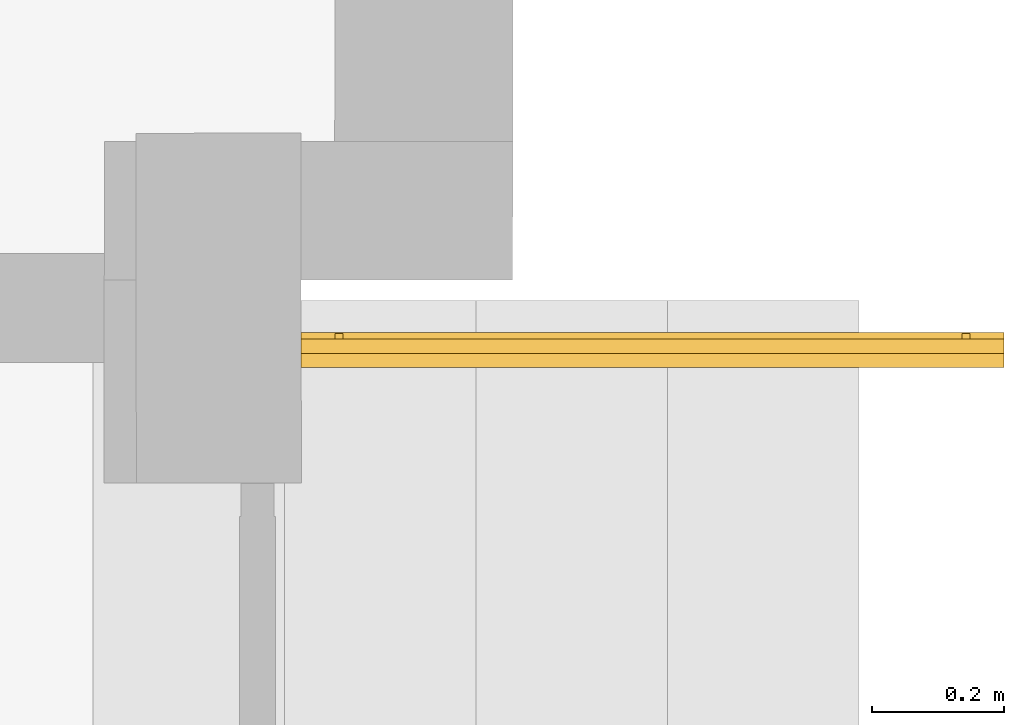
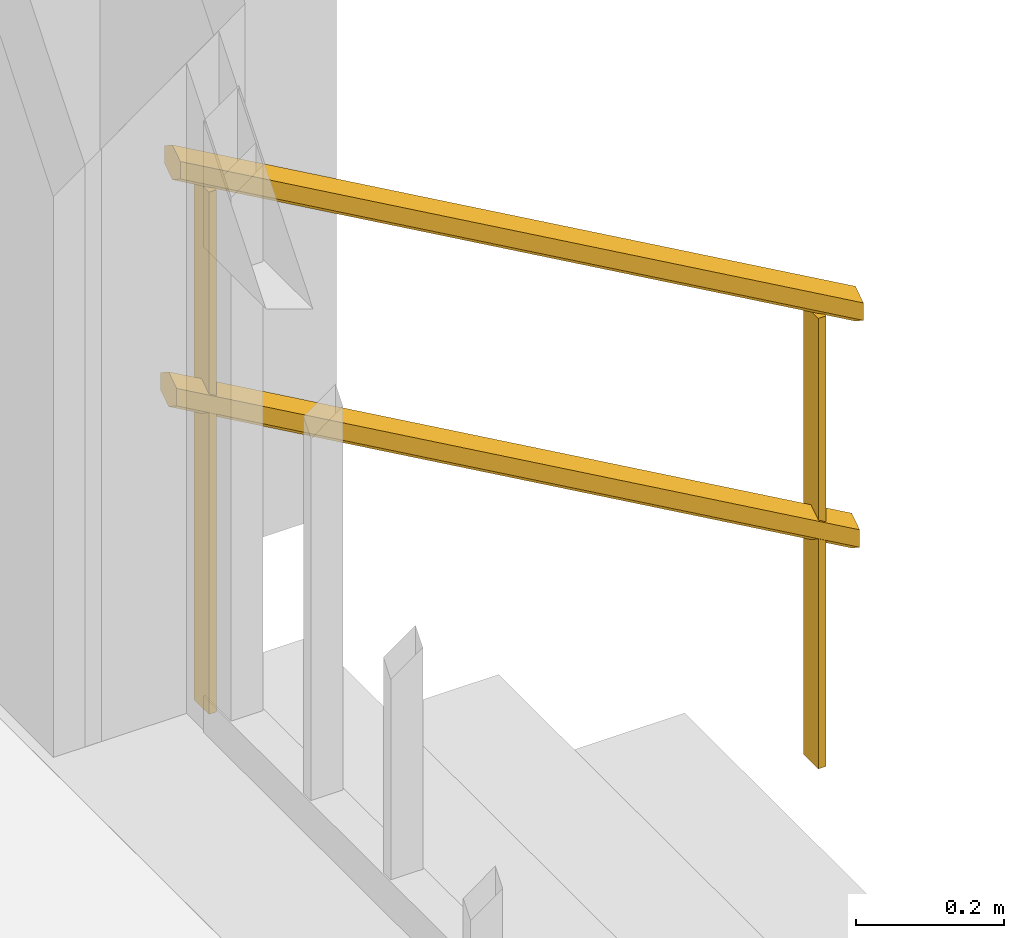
# One storey, part 64 of 128: 1 railing, 1 element without a shape of its own.
"""IFC2X3 building model written with IfcOpenShell, lengths in metres."""

from ifc_helpers import new_model, entity, si_unit, converted_unit, derived_unit, direction, frame, origin, place, context, subcontext, project, spatial, faceted_brep, material, type_object, element, aggregate, save


model = new_model("IFC2X3")

# Units and contexts
model_context = context("Model", 3, precision=1e-05, world=origin(), true_north=direction((6.123031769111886e-17, 1.0)))
body_context = subcontext(model_context, "Body", "Model", "MODEL_VIEW")
ifc_project = project(units=[si_unit("LENGTHUNIT", "METRE"), si_unit("AREAUNIT", "SQUARE_METRE"), converted_unit("PLANEANGLEUNIT", "DEGREE", entity("IfcPlaneAngleMeasure", 0.017453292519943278), si_unit("PLANEANGLEUNIT", "RADIAN"), dimensions=[0, 0, 0, 0, 0, 0, 0]), derived_unit("THERMALTRANSMITTANCEUNIT", [(si_unit("MASSUNIT", "GRAM", prefix="KILO"), 1), (si_unit("THERMODYNAMICTEMPERATUREUNIT", "KELVIN"), -1), (si_unit("TIMEUNIT", "SECOND"), -3)])], contexts=[model_context])

# Site, building, storey
site_placement = place(None, origin())
site = spatial("IfcSite", under=ifc_project, at=site_placement, Name="Default", CompositionType="ELEMENT")
building_placement = place(site_placement, origin())
building = spatial("IfcBuilding", under=site, at=building_placement, CompositionType="ELEMENT")
storey_placement = place(building_placement, origin())
storey = spatial("IfcBuildingStorey", under=building, at=storey_placement, Name="00_RDC CAF", CompositionType="ELEMENT", Elevation=2.4982504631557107e-13)

# Stair, railing
type_product = type_object("IfcTypeProduct", Name="Escalier coulé sur place:E_Coule_en_place_Beton_Paillasse_550mm")
stair_placement = place(storey_placement, origin())
stair = element("IfcStair", 1, at=stair_placement, inside=storey, type_object=type_product, Name="Escalier coulé sur place:Escalier", ObjectType="Escalier coulé sur place:E_Coule_en_place_Beton_Paillasse_550mm", ShapeType="STRAIGHT_RUN_STAIR")
ifc_material = material(Name="STR - Acier")
railing_type = type_object("IfcRailingType", Name="Garde-corps:GC_2_lisses_D25_550mm", PredefinedType="NOTDEFINED")
railing_placement = place(stair_placement, frame((48.8488530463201, 129.89092657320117, -0.5874979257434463)))
railing = element("IfcRailing", 2, at=railing_placement, type_object=railing_type, material=ifc_material, Name="Garde-corps:GC_2_lisses_D25_550mm", ObjectType="Garde-corps:GC_2_lisses_D25_550mm", PredefinedType="NOTDEFINED", context=body_context, shape_type="Brep", body=[
    faceted_brep([(0.05142788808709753, 0.016595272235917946, 1.2829906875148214), (0.06342788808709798, 0.016595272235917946, 1.2829906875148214), (0.06342788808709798, 0.05659527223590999, 1.2829906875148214), (0.05142788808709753, 0.05659527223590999, 1.2829906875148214), (0.05142788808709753, 0.016595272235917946, 0.42249792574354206), (0.05142788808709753, 0.05659527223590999, 0.42249792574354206), (0.06342788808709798, 0.05659527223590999, 0.42249792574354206), (0.06342788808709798, 0.016595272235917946, 0.42249792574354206)], [[[0, 1, 2, 3]], [[4, 5, 6, 7]], [[1, 0, 4, 7]], [[2, 1, 7, 6]], [[3, 2, 6, 5]], [[0, 3, 5, 4]]]),
    faceted_brep([(1.0014278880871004, 0.016595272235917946, 0.7424734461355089), (1.0134278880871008, 0.016595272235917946, 0.7424734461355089), (1.0134278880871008, 0.05659527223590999, 0.7424734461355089), (1.0014278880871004, 0.05659527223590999, 0.7424734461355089), (1.0014278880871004, 0.016595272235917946, 0.0), (1.0014278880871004, 0.05659527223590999, 0.0), (1.0134278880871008, 0.05659527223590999, 0.0), (1.0134278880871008, 0.016595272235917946, 0.0)], [[[0, 1, 2, 3]], [[4, 5, 6, 7]], [[1, 0, 4, 7]], [[2, 1, 7, 6]], [[3, 2, 6, 5]], [[0, 3, 5, 4]]]),
    faceted_brep([(1.0648557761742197, 0.01494463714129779, 0.34418059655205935), (1.0648557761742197, 0.02035729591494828, 0.3405851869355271), (1.0648557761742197, 0.025769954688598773, 0.3369897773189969), (1.0648557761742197, 0.03257497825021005, 0.3324694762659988), (1.0648557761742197, 0.036595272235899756, 0.32979895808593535), (1.0648557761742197, 0.04061556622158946, 0.33246947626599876), (1.0648557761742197, 0.04463586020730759, 0.335139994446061), (1.0648557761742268, 0.051440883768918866, 0.33966029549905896), (1.0648557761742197, 0.05824590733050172, 0.3441805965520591), (1.0648557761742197, 0.05824590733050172, 0.3513714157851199), (1.0648557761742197, 0.05824590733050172, 0.35856223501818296), (1.0648557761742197, 0.05824590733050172, 0.36575305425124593), (1.0648557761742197, 0.05824590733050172, 0.3729438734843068), (1.0648557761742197, 0.05283324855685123, 0.3765392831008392), (1.0648557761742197, 0.04742058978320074, 0.3801346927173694), (1.0648557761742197, 0.04200793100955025, 0.3837301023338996), (1.0648557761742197, 0.036595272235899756, 0.38732551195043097), (1.0648557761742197, 0.031182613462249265, 0.3837301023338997), (1.0648557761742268, 0.025769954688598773, 0.38013469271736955), (1.0648557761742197, 0.02035729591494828, 0.3765392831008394), (1.0648557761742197, 0.01494463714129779, 0.37294387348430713), (1.0648557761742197, 0.014944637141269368, 0.36575305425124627), (1.0648557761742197, 0.01494463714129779, 0.3585622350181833), (1.0648557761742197, 0.01494463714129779, 0.3513714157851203), (0.0, 0.01494463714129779, 0.9500468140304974), (0.0, 0.01494463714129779, 0.9572376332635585), (0.0, 0.01494463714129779, 0.9644284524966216), (0.0, 0.01494463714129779, 0.9716192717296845), (0.0, 0.01494463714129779, 0.9788100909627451), (0.0, 0.02174966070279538, 0.983330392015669), (0.0, 0.02855468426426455, 0.9878506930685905), (0.0, 0.03257497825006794, 0.9905212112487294), (0.0, 0.036595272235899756, 0.993191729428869), (0.0, 0.04061556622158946, 0.9905212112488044), (0.0, 0.04742058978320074, 0.9860009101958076), (0.0, 0.05283324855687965, 0.9824055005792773), (0.0, 0.05824590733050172, 0.9788100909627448), (0.0, 0.058245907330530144, 0.9716192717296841), (0.0, 0.05824590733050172, 0.9644284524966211), (0.0, 0.05824590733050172, 0.9572376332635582), (0.0, 0.05824590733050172, 0.9500468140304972), (0.0, 0.05283324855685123, 0.946451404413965), (0.0, 0.04742058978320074, 0.9428559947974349), (0.0, 0.04200793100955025, 0.9392605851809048), (0.0, 0.036595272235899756, 0.9356651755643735), (0.0, 0.031182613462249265, 0.9392605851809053), (0.0, 0.025769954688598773, 0.9428559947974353), (0.0, 0.02035729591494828, 0.9464514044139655)], [[[0, 1, 2, 3, 4, 5, 6, 7, 8, 9, 10, 11, 12, 13, 14, 15, 16, 17, 18, 19, 20, 21, 22, 23]], [[24, 25, 26, 27, 28, 29, 30, 31, 32, 33, 34, 35, 36, 37, 38, 39, 40, 41, 42, 43, 44, 45, 46, 47]], [[8, 7, 6, 5, 4, 44, 43, 42, 41, 40]], [[10, 9, 8, 40, 39, 38, 37, 36, 12, 11]], [[33, 32, 16, 15, 14, 13, 12, 36, 35, 34]], [[28, 20, 19, 18, 17, 16, 32, 31, 30, 29]], [[2, 1, 0, 24, 47, 46, 45, 44, 4, 3]], [[23, 22, 21, 20, 28, 27, 26, 25, 24, 0]]]),
    faceted_brep([(1.0648557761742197, 0.004944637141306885, 0.7241805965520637), (1.0648557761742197, 0.010357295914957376, 0.7205851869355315), (1.0648557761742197, 0.015769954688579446, 0.7169897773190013), (1.0648557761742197, 0.022574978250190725, 0.7124694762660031), (1.0648557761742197, 0.02659527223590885, 0.7097989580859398), (1.0648557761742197, 0.030615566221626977, 0.7124694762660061), (1.0648557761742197, 0.034635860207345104, 0.7151399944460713), (1.0648557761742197, 0.04144088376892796, 0.7196602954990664), (1.0648557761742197, 0.04824590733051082, 0.7241805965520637), (1.0648557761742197, 0.04824590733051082, 0.7313714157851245), (1.0648557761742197, 0.04824590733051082, 0.7385622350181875), (1.0648557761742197, 0.04824590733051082, 0.7457530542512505), (1.0648557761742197, 0.04824590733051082, 0.7529438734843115), (1.0648557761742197, 0.042833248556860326, 0.7565392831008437), (1.0648557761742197, 0.037420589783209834, 0.7601346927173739), (1.0648557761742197, 0.03200793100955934, 0.7637301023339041), (1.0648557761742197, 0.02659527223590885, 0.7673255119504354), (1.0648557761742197, 0.02118261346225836, 0.7637301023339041), (1.0648557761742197, 0.015769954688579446, 0.760134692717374), (1.0648557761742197, 0.010357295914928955, 0.7565392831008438), (1.0648557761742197, 0.004944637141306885, 0.7529438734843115), (1.0648557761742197, 0.004944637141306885, 0.7457530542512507), (1.0648557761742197, 0.004944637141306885, 0.7385622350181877), (1.0648557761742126, 0.004944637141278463, 0.7313714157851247), (0.0, 0.004944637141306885, 1.3588100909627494), (0.0, 0.011749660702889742, 1.3633303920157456), (0.0, 0.0185546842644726, 1.3678506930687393), (0.0, 0.022574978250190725, 1.3705212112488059), (0.0, 0.02659527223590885, 1.3731917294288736), (0.0, 0.030615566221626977, 1.3705212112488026), (0.0, 0.037420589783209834, 1.3660009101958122), (0.0, 0.042833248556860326, 1.362405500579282), (0.0, 0.04824590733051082, 1.3588100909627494), (0.0, 0.048245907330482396, 1.3516192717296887), (0.0, 0.04824590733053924, 1.3444284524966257), (0.0, 0.04824590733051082, 1.337237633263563), (0.0, 0.04824590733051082, 1.3300468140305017), (0.0, 0.042833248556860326, 1.32645140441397), (0.0, 0.037420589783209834, 1.3228559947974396), (0.0, 0.03200793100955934, 1.3192605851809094), (0.0, 0.02659527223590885, 1.3156651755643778), (0.0, 0.02118261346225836, 1.3192605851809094), (0.0, 0.015769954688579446, 1.3228559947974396), (0.0, 0.010357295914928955, 1.32645140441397), (0.0, 0.004944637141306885, 1.3300468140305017), (0.0, 0.004944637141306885, 1.337237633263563), (0.0, 0.004944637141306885, 1.344428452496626), (0.0, 0.004944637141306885, 1.3516192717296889)], [[[0, 1, 2, 3, 4, 5, 6, 7, 8, 9, 10, 11, 12, 13, 14, 15, 16, 17, 18, 19, 20, 21, 22, 23]], [[24, 25, 26, 27, 28, 29, 30, 31, 32, 33, 34, 35, 36, 37, 38, 39, 40, 41, 42, 43, 44, 45, 46, 47]], [[8, 7, 6, 5, 4, 40, 39, 38, 37, 36]], [[10, 9, 8, 36, 35, 34, 33, 32, 12, 11]], [[29, 28, 16, 15, 14, 13, 12, 32, 31, 30]], [[24, 20, 19, 18, 17, 16, 28, 27, 26, 25]], [[2, 1, 0, 44, 43, 42, 41, 40, 4, 3]], [[23, 22, 21, 20, 24, 47, 46, 45, 44, 0]]]),
])
aggregate(stair, [railing])

save(model, "model.ifc")
